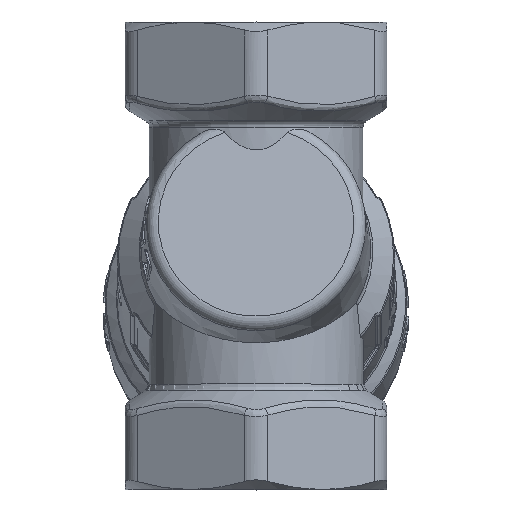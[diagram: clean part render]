
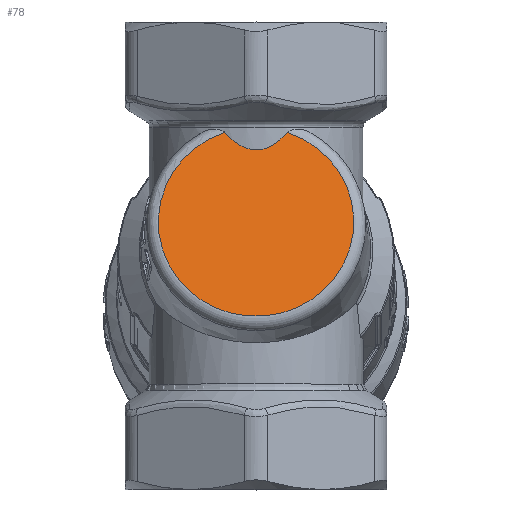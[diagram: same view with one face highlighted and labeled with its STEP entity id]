
A CAD part, top view. The second image highlights one B-rep face of the part: STEP entity #78.
In plain terms, the highlighted planar face has unit normal (0, 0.259, 0.966).
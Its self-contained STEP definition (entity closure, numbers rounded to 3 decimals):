
#78=ADVANCED_FACE('',(#1029),#1031,.F.);
#1029=FACE_BOUND('',#1030,.T.);
#1030=EDGE_LOOP('',(#12377,#12378));
#1031=PLANE('',#1032);
#1032=AXIS2_PLACEMENT_3D('',#1033,#1034,#1035);
#1033=CARTESIAN_POINT('',(0.,8.541,31.876));
#1034=DIRECTION('',(0.,-0.259,-0.966));
#1035=DIRECTION('',(0.,-0.966,0.259));
#12377=ORIENTED_EDGE('',*,*,#16973,.F.);
#12378=ORIENTED_EDGE('',*,*,#16842,.T.);
#16842=EDGE_CURVE('',#18843,#18841,#18844,.F.);
#16973=EDGE_CURVE('',#18843,#18841,#19092,.T.);
#18841=VERTEX_POINT('',#23971);
#18843=VERTEX_POINT('',#24028);
#18844=(BOUNDED_CURVE()B_SPLINE_CURVE(3,
(#24029,#24030,#24031,#24032),
.UNSPECIFIED.,.F.,.F.)B_SPLINE_CURVE_WITH_KNOTS((4,4),
(0.,1.),
.UNSPECIFIED.)CURVE()GEOMETRIC_REPRESENTATION_ITEM()RATIONAL_B_SPLINE_CURVE((1.,
0.971,0.971,1.))REPRESENTATION_ITEM(''));
#19092=CIRCLE('',#26276,24.674);
#23971=CARTESIAN_POINT('',(-7.882,31.126,25.824));
#24028=CARTESIAN_POINT('',(7.882,31.126,25.824));
#24029=CARTESIAN_POINT('',(-7.882,31.126,25.824));
#24030=CARTESIAN_POINT('',(-2.706,25.23,27.404));
#24031=CARTESIAN_POINT('',(2.706,25.23,27.404));
#24032=CARTESIAN_POINT('',(7.882,31.126,25.824));
#26276=AXIS2_PLACEMENT_3D('',#26277,#26278,#26279);
#26277=CARTESIAN_POINT('',(0.,8.541,31.876));
#26278=DIRECTION('',(0.,-0.259,-0.966));
#26279=DIRECTION('',(0.319,0.915,-0.245));
